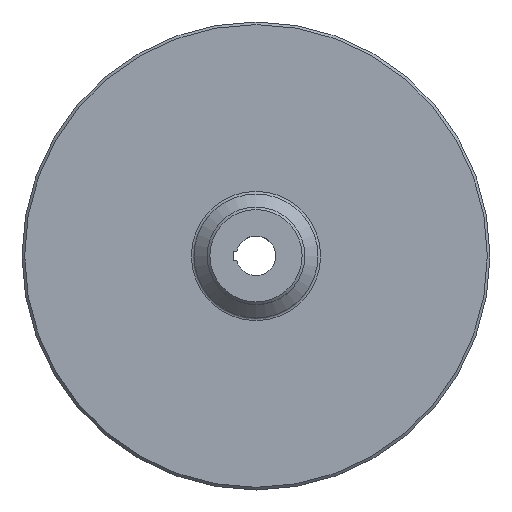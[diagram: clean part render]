
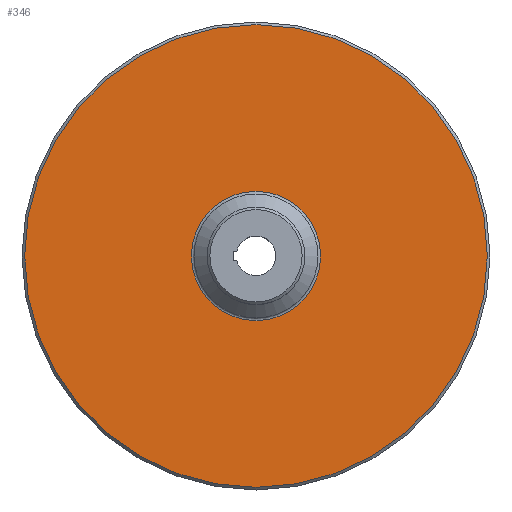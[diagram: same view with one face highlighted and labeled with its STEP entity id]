
A CAD part, top view. The second image highlights one B-rep face of the part: STEP entity #346.
In plain terms, the highlighted planar face has unit normal (0, 0, 1).
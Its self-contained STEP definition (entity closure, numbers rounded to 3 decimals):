
#23=PLANE('',#384);
#65=FACE_BOUND('',#120,.T.);
#86=FACE_OUTER_BOUND('',#119,.T.);
#119=EDGE_LOOP('',(#256));
#120=EDGE_LOOP('',(#257));
#154=CIRCLE('',#381,49.);
#156=CIRCLE('',#385,175.5);
#178=VERTEX_POINT('',#737);
#180=VERTEX_POINT('',#743);
#209=EDGE_CURVE('',#178,#178,#154,.T.);
#211=EDGE_CURVE('',#180,#180,#156,.T.);
#256=ORIENTED_EDGE('',*,*,#211,.F.);
#257=ORIENTED_EDGE('',*,*,#209,.F.);
#346=ADVANCED_FACE('',(#86,#65),#23,.T.);
#381=AXIS2_PLACEMENT_3D('',#738,#442,#443);
#384=AXIS2_PLACEMENT_3D('',#742,#448,#449);
#385=AXIS2_PLACEMENT_3D('',#744,#450,#451);
#442=DIRECTION('center_axis',(0.,0.,1.));
#443=DIRECTION('ref_axis',(-1.,0.,0.));
#448=DIRECTION('center_axis',(0.,0.,1.));
#449=DIRECTION('ref_axis',(1.,0.,0.));
#450=DIRECTION('center_axis',(0.,0.,-1.));
#451=DIRECTION('ref_axis',(-1.,0.,0.));
#737=CARTESIAN_POINT('',(42.158,-11.257,-39.415));
#738=CARTESIAN_POINT('Origin',(-6.842,-11.257,-39.415));
#742=CARTESIAN_POINT('Origin',(-6.842,-11.257,-39.415));
#743=CARTESIAN_POINT('',(168.658,-11.257,-39.415));
#744=CARTESIAN_POINT('Origin',(-6.842,-11.257,-39.415));
